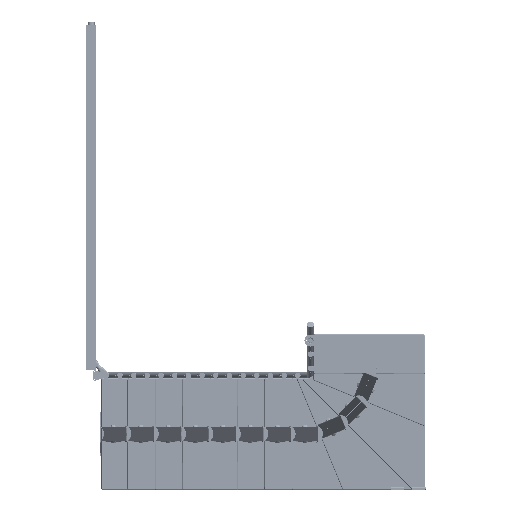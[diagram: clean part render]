
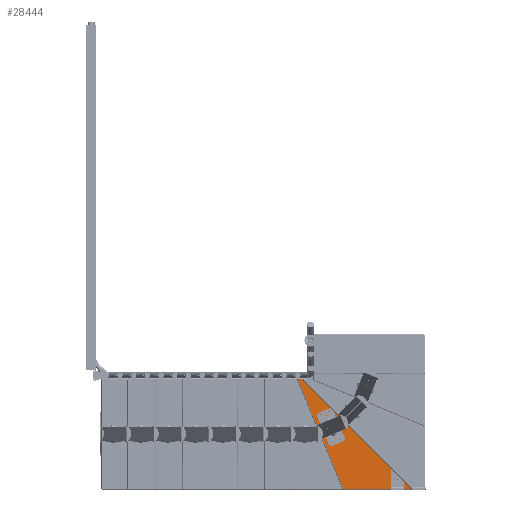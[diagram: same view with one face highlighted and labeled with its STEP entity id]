
A CAD part, front view. The second image highlights one B-rep face of the part: STEP entity #28444.
In plain terms, the highlighted planar face has unit normal (0, -1, 0) as drawn and (0, 1, 0) by its records, which use the part's own axes.
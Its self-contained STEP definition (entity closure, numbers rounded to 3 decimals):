
#1919 = CARTESIAN_POINT ( 'NONE',  ( -440.087, 19., -539.756 ) ) ;
#2049 = CARTESIAN_POINT ( 'NONE',  ( -442., 19., -535.137 ) ) ;
#2297 = LINE ( 'NONE', #1919, #16761 ) ;
#4484 = AXIS2_PLACEMENT_3D ( 'NONE', #73439, #21576, #55326 ) ;
#5479 = CIRCLE ( 'NONE', #39912, 50. ) ;
#6294 = FACE_OUTER_BOUND ( 'NONE', #73746, .T. ) ;
#6408 = CIRCLE ( 'NONE', #15072, 5. ) ;
#6834 = CIRCLE ( 'NONE', #4484, 5. ) ;
#7096 = DIRECTION ( 'NONE',  ( 0., 0., -1. ) ) ;
#7159 = AXIS2_PLACEMENT_3D ( 'NONE', #2049, #43550, #24787 ) ;
#8495 = VECTOR ( 'NONE', #74673, 1000. ) ;
#9649 = CIRCLE ( 'NONE', #7159, 5. ) ;
#9683 = CARTESIAN_POINT ( 'NONE',  ( -10., 19., -356.197 ) ) ;
#10240 = ORIENTED_EDGE ( 'NONE', *, *, #31990, .T. ) ;
#10675 = VECTOR ( 'NONE', #28616, 1000. ) ;
#11824 = AXIS2_PLACEMENT_3D ( 'NONE', #9683, #49619, #73856 ) ;
#12103 = CARTESIAN_POINT ( 'NONE',  ( -442., 19., -535.137 ) ) ;
#12279 = ORIENTED_EDGE ( 'NONE', *, *, #54064, .T. ) ;
#12741 = CARTESIAN_POINT ( 'NONE',  ( -102.96, 19., 292.617 ) ) ;
#14417 = CARTESIAN_POINT ( 'NONE',  ( -11.913, 19., 330.33 ) ) ;
#15072 = AXIS2_PLACEMENT_3D ( 'NONE', #40272, #53232, #51759 ) ;
#15476 = ORIENTED_EDGE ( 'NONE', *, *, #18714, .T. ) ;
#15621 = AXIS2_PLACEMENT_3D ( 'NONE', #35262, #30600, #65178 ) ;
#15911 = CARTESIAN_POINT ( 'NONE',  ( -5., 19., -356.197 ) ) ;
#16489 = CARTESIAN_POINT ( 'NONE',  ( -5., 19., -38.584 ) ) ;
#16761 = VECTOR ( 'NONE', #66119, 1000. ) ;
#16992 = CIRCLE ( 'NONE', #36612, 5. ) ;
#17844 = ORIENTED_EDGE ( 'NONE', *, *, #33394, .T. ) ;
#18034 = CARTESIAN_POINT ( 'NONE',  ( -442., 19., -540.137 ) ) ;
#18714 = EDGE_CURVE ( 'NONE', #31378, #50856, #46949, .T. ) ;
#19209 = CIRCLE ( 'NONE', #11824, 5. ) ;
#19259 = ORIENTED_EDGE ( 'NONE', *, *, #56692, .T. ) ;
#20275 = LINE ( 'NONE', #43674, #60727 ) ;
#20914 = EDGE_CURVE ( 'NONE', #75416, #59338, #29660, .T. ) ;
#21576 = DIRECTION ( 'NONE',  ( 0., 1., 0. ) ) ;
#21599 = AXIS2_PLACEMENT_3D ( 'NONE', #12103, #35919, #58908 ) ;
#22941 = CARTESIAN_POINT ( 'NONE',  ( -105.666, 19., 289.911 ) ) ;
#23163 = CARTESIAN_POINT ( 'NONE',  ( -10., 19., 330.71 ) ) ;
#23202 = CARTESIAN_POINT ( 'NONE',  ( -5., 19., 325.71 ) ) ;
#24787 = DIRECTION ( 'NONE',  ( 0., 0., 1. ) ) ;
#24947 = ORIENTED_EDGE ( 'NONE', *, *, #29066, .T. ) ;
#25052 = CARTESIAN_POINT ( 'NONE',  ( -11.913, 19., 330.33 ) ) ;
#25555 = VERTEX_POINT ( 'NONE', #16489 ) ;
#26452 = ORIENTED_EDGE ( 'NONE', *, *, #20914, .T. ) ;
#27649 = EDGE_CURVE ( 'NONE', #35873, #53507, #69727, .T. ) ;
#28444 = ADVANCED_FACE ( 'NONE', ( #6294 ), #65075, .T. ) ;
#28616 = DIRECTION ( 'NONE',  ( 0.383, 0., 0.924 ) ) ;
#28806 = VERTEX_POINT ( 'NONE', #66138 ) ;
#29066 = EDGE_CURVE ( 'NONE', #59338, #50651, #6834, .T. ) ;
#29660 = LINE ( 'NONE', #25052, #32307 ) ;
#29797 = CARTESIAN_POINT ( 'NONE',  ( 26.8, 19., 0. ) ) ;
#30600 = DIRECTION ( 'NONE',  ( 0., 1., 0. ) ) ;
#31378 = VERTEX_POINT ( 'NONE', #23202 ) ;
#31990 = EDGE_CURVE ( 'NONE', #50856, #25555, #5479, .T. ) ;
#32307 = VECTOR ( 'NONE', #58819, 1000. ) ;
#33394 = EDGE_CURVE ( 'NONE', #37286, #35873, #16992, .T. ) ;
#34387 = CARTESIAN_POINT ( 'NONE',  ( -442., 19., -535.137 ) ) ;
#35262 = CARTESIAN_POINT ( 'NONE',  ( -10., 19., 325.71 ) ) ;
#35873 = VERTEX_POINT ( 'NONE', #64205 ) ;
#35919 = DIRECTION ( 'NONE',  ( 0., 1., 0. ) ) ;
#36612 = AXIS2_PLACEMENT_3D ( 'NONE', #34387, #46263, #39760 ) ;
#37286 = VERTEX_POINT ( 'NONE', #18034 ) ;
#39373 = EDGE_CURVE ( 'NONE', #53507, #75416, #6408, .T. ) ;
#39760 = DIRECTION ( 'NONE',  ( 0., 0., 1. ) ) ;
#39765 = CARTESIAN_POINT ( 'NONE',  ( -105.666, 19., 289.911 ) ) ;
#39912 = AXIS2_PLACEMENT_3D ( 'NONE', #29797, #53185, #7096 ) ;
#40272 = CARTESIAN_POINT ( 'NONE',  ( -101.046, 19., 287.998 ) ) ;
#40591 = VERTEX_POINT ( 'NONE', #73715 ) ;
#42457 = ORIENTED_EDGE ( 'NONE', *, *, #27649, .T. ) ;
#43550 = DIRECTION ( 'NONE',  ( 0., 1., 0. ) ) ;
#43674 = CARTESIAN_POINT ( 'NONE',  ( -5., 19., -356.197 ) ) ;
#45183 = CARTESIAN_POINT ( 'NONE',  ( -440.087, 19., -539.756 ) ) ;
#46263 = DIRECTION ( 'NONE',  ( 0., 1., 0. ) ) ;
#46344 = ORIENTED_EDGE ( 'NONE', *, *, #53206, .T. ) ;
#46949 = LINE ( 'NONE', #15911, #8495 ) ;
#48579 = ORIENTED_EDGE ( 'NONE', *, *, #71843, .T. ) ;
#49619 = DIRECTION ( 'NONE',  ( 0., 1., 0. ) ) ;
#50651 = VERTEX_POINT ( 'NONE', #23163 ) ;
#50856 = VERTEX_POINT ( 'NONE', #66127 ) ;
#51759 = DIRECTION ( 'NONE',  ( 0., 0., 1. ) ) ;
#53185 = DIRECTION ( 'NONE',  ( 0., -1., 0. ) ) ;
#53206 = EDGE_CURVE ( 'NONE', #25555, #28806, #20275, .T. ) ;
#53232 = DIRECTION ( 'NONE',  ( 0., 1., 0. ) ) ;
#53507 = VERTEX_POINT ( 'NONE', #22941 ) ;
#54064 = EDGE_CURVE ( 'NONE', #28806, #40591, #19209, .T. ) ;
#55326 = DIRECTION ( 'NONE',  ( 0., 0., 1. ) ) ;
#56026 = CIRCLE ( 'NONE', #15621, 5. ) ;
#56609 = ORIENTED_EDGE ( 'NONE', *, *, #39373, .T. ) ;
#56692 = EDGE_CURVE ( 'NONE', #57762, #37286, #9649, .T. ) ;
#57762 = VERTEX_POINT ( 'NONE', #45183 ) ;
#58819 = DIRECTION ( 'NONE',  ( 0.924, 0., 0.383 ) ) ;
#58908 = DIRECTION ( 'NONE',  ( 0., 0., 1. ) ) ;
#59338 = VERTEX_POINT ( 'NONE', #14417 ) ;
#60727 = VECTOR ( 'NONE', #61338, 1000. ) ;
#61338 = DIRECTION ( 'NONE',  ( 0., 0., -1. ) ) ;
#64205 = CARTESIAN_POINT ( 'NONE',  ( -446.619, 19., -533.223 ) ) ;
#65075 = PLANE ( 'NONE',  #21599 ) ;
#65178 = DIRECTION ( 'NONE',  ( 0., 0., 1. ) ) ;
#66119 = DIRECTION ( 'NONE',  ( -0.924, 0., -0.383 ) ) ;
#66127 = CARTESIAN_POINT ( 'NONE',  ( -5., 19., 38.584 ) ) ;
#66138 = CARTESIAN_POINT ( 'NONE',  ( -5., 19., -356.197 ) ) ;
#69629 = EDGE_CURVE ( 'NONE', #40591, #57762, #2297, .T. ) ;
#69727 = LINE ( 'NONE', #39765, #10675 ) ;
#71843 = EDGE_CURVE ( 'NONE', #50651, #31378, #56026, .T. ) ;
#73439 = CARTESIAN_POINT ( 'NONE',  ( -10., 19., 325.71 ) ) ;
#73715 = CARTESIAN_POINT ( 'NONE',  ( -8.087, 19., -360.816 ) ) ;
#73746 = EDGE_LOOP ( 'NONE', ( #10240, #46344, #12279, #74493, #19259, #17844, #42457, #56609, #26452, #24947, #48579, #15476 ) ) ;
#73856 = DIRECTION ( 'NONE',  ( 0., 0., 1. ) ) ;
#74493 = ORIENTED_EDGE ( 'NONE', *, *, #69629, .T. ) ;
#74673 = DIRECTION ( 'NONE',  ( 0., 0., -1. ) ) ;
#75416 = VERTEX_POINT ( 'NONE', #12741 ) ;
